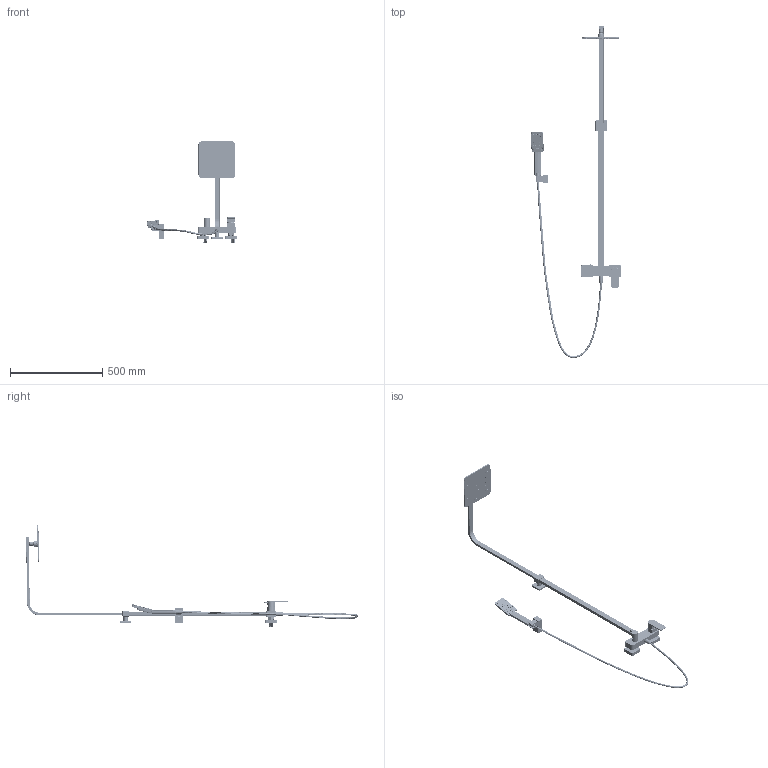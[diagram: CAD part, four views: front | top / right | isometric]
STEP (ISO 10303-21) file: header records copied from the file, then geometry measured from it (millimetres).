
FILE_DESCRIPTION (( 'STEP AP203' ), '1' );
FILE_NAME ('5902539851113.STEP', '2022-11-10T11:12:21', ( '' ), ( '' ), 'SwSTEP 2.0', 'SolidWorks 2022', '' );
FILE_SCHEMA (( 'CONFIG_CONTROL_DESIGN' ));
Length unit declared in the file: millimetre
Products named in the file (1): 5902539851113
Bounding box: 486.23 x 1798.04 x 550.43 mm (x, y, z)
Volume: 863676.5 mm3; surface area: 954465.8 mm2
Topology: 118 solids, 118 shells, 10002 faces, 25592 edges, 16020 vertices
Faces by surface type: plane 3369, cylinder 3220, cone 1591, torus 1037, bspline 697, sphere 88
Entity records: 390741 total; most frequent: CARTESIAN_POINT 150634, ORIENTED_EDGE 51012, DIRECTION 49892, EDGE_CURVE 25506, AXIS2_PLACEMENT_3D 18959, VERTEX_POINT 16020, LINE 11974, VECTOR 11974
